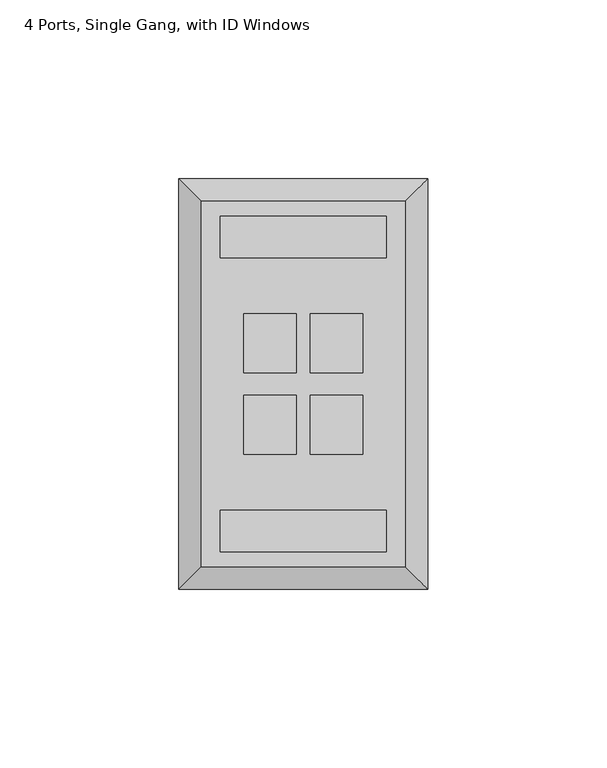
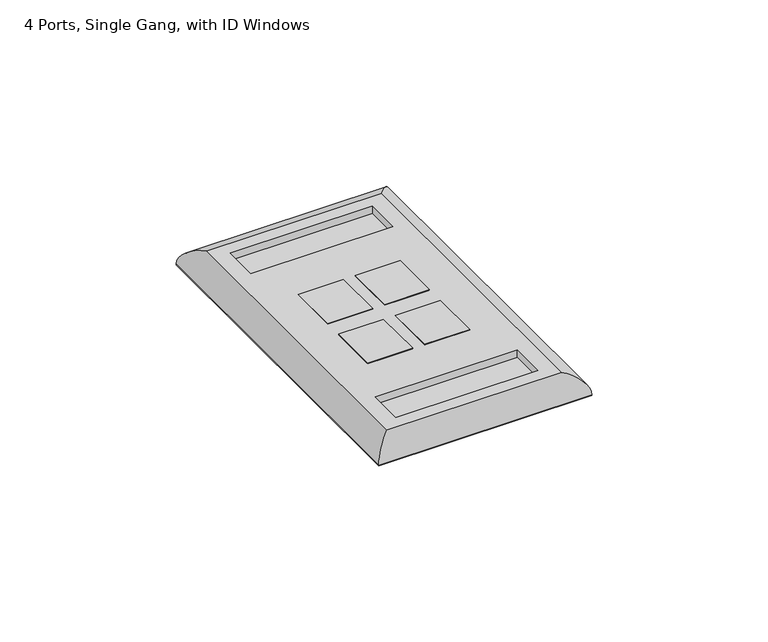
"""IFC4 building model written with IfcOpenShell, lengths in millimetres: electric appliance geometry, Data_Device-Work_Area-Leviton-QuickPort-Wallplate : 4 Ports, Single Gang, with ID Windows."""

from ifc_helpers import new_model, si_unit, frame, origin, origin_with_axes, place, context, project, spatial, polyline, ellipse_curve, outline, extrude, source, transform, mapped, element, save
from ifc_brep_helpers import plane_surface, cylinder_surface, advanced_brep


def electric_appliance_4_ports_single_gang_with_id_windows_01c80b1b(model_context):
    return source(origin(), model_context, "Body", "SolidModel", [
        extrude(outline(polyline([(-24.9936, 27.813), (-24.9936, 11.303), (-39.7256, 11.303), (-39.7256, 27.813), (-24.9936, 27.813)])), origin_with_axes(), (0.0, 0.0, 1.0), 6.35),
        extrude(outline(polyline([(-24.9936, 5.08), (-24.9936, -11.43), (-39.7256, -11.43), (-39.7256, 5.08), (-24.9936, 5.08)])), origin_with_axes(), (0.0, 0.0, 1.0), 6.35),
        extrude(outline(polyline([(-6.3246, 27.813), (-6.3246, 11.303), (-21.0566, 11.303), (-21.0566, 27.813), (-6.3246, 27.813)])), origin_with_axes(), (0.0, 0.0, 1.0), 6.35),
        extrude(outline(polyline([(-6.3246, 5.08), (-6.3246, -11.43), (-21.0566, -11.43), (-21.0566, 5.08), (-6.3246, 5.08)])), origin_with_axes(), (0.0, 0.0, 1.0), 6.35),
        advanced_brep(
        [(5.5499, -42.9895, 6.35), (5.5499, 59.3725, 6.35), (-51.6001, 59.3725, 6.35), (-51.6001, -42.9895, 6.35), (-39.7256, 27.813, 6.35), (-24.9936, 27.813, 6.35), (-24.9936, 11.303, 6.35), (-39.7256, 11.303, 6.35), (-39.7256, 5.08, 6.35), (-24.9936, 5.08, 6.35), (-24.9936, -11.43, 6.35), (-39.7256, -11.43, 6.35), (-21.0566, 27.813, 6.35), (-6.3246, 27.813, 6.35), (-6.3246, 11.303, 6.35), (-21.0566, 11.303, 6.35), (-21.0566, 5.08, 6.35), (-6.3246, 5.08, 6.35), (-6.3246, -11.43, 6.35), (-21.0566, -11.43, 6.35), (-46.2661, 55.1815, 6.35), (0.2159, 55.1815, 6.35), (0.2159, 43.4975, 6.35), (-46.2661, 43.4975, 6.35), (0.2159, -27.1145, 6.35), (0.2159, -38.7985, 6.35), (-46.2661, -38.7985, 6.35), (-46.2661, -27.1145, 6.35), (11.8999, 65.7225, 0.0), (11.8999, -49.3395, 0.0), (-57.9501, -49.3395, 0.0), (-57.9501, 65.7225, 0.0), (-24.9936, 27.813, 0.0), (-39.7256, 27.813, 0.0), (-39.7256, 11.303, 0.0), (-24.9936, 11.303, 0.0), (-24.9936, 5.08, 0.0), (-39.7256, 5.08, 0.0), (-39.7256, -11.43, 0.0), (-24.9936, -11.43, 0.0), (-6.3246, 27.813, 0.0), (-21.0566, 27.813, 0.0), (-21.0566, 11.303, 0.0), (-6.3246, 11.303, 0.0), (-6.3246, 5.08, 0.0), (-21.0566, 5.08, 0.0), (-21.0566, -11.43, 0.0), (-6.3246, -11.43, 0.0), (-57.9501, 65.7225, 0.254), (11.8999, 65.7225, 0.254), (-57.9501, -49.3395, 0.254), (11.8999, -49.3395, 0.254), (0.2159, 55.1815, 3.81), (-46.2661, 55.1815, 3.81), (-46.2661, 43.4975, 3.81), (0.2159, 43.4975, 3.81), (0.2159, -38.7985, 3.81), (0.2159, -27.1145, 3.81), (-46.2661, -27.1145, 3.81), (-46.2661, -38.7985, 3.81)],
        [
            (0, 1),
            (1, 2),
            (2, 3),
            (3, 0),
            (4, 5),
            (5, 6),
            (6, 7),
            (7, 4),
            (8, 9),
            (9, 10),
            (10, 11),
            (11, 8),
            (12, 13),
            (13, 14),
            (14, 15),
            (15, 12),
            (16, 17),
            (17, 18),
            (18, 19),
            (19, 16),
            (20, 21),
            (21, 22),
            (22, 23),
            (23, 20),
            (24, 25),
            (25, 26),
            (26, 27),
            (27, 24),
            (28, 29),
            (29, 30),
            (30, 31),
            (31, 28),
            (32, 33),
            (33, 34),
            (34, 35),
            (35, 32),
            (36, 37),
            (37, 38),
            (38, 39),
            (39, 36),
            (40, 41),
            (41, 42),
            (42, 43),
            (43, 40),
            (44, 45),
            (45, 46),
            (46, 47),
            (47, 44),
            (31, 48),
            (48, 49),
            (49, 28),
            (30, 50),
            (50, 48),
            (29, 51),
            (51, 50),
            (49, 51),
            (4, 33),
            (32, 5),
            (7, 34),
            (6, 35),
            (8, 37),
            (36, 9),
            (11, 38),
            (10, 39),
            (12, 41),
            (40, 13),
            (15, 42),
            (14, 43),
            (16, 45),
            (44, 17),
            (19, 46),
            (18, 47),
            (52, 53),
            (53, 54),
            (54, 55),
            (55, 52),
            (56, 57),
            (57, 58),
            (58, 59),
            (59, 56),
            (52, 21),
            (20, 53),
            (23, 54),
            (22, 55),
            (56, 25),
            (24, 57),
            (27, 58),
            (26, 59),
            (0, 51, ellipse_curve(frame((5.5499, -42.9895, -0.0052917), z_axis=(0.7071067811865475, 0.7071067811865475, 0.0), x_axis=(0.7071067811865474, -0.7071067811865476, 0.0)), 8.9877397, 6.3552917)),
            (49, 1, ellipse_curve(frame((5.5499, 59.3725, -0.0052917), z_axis=(0.7071067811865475, -0.7071067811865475, 0.0), x_axis=(-0.7071067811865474, -0.7071067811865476, 0.0)), 8.9877397, 6.3552917)),
            (3, 50, ellipse_curve(frame((-51.6001, -42.9895, -0.0052917), z_axis=(0.7071067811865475, -0.7071067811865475, 0.0), x_axis=(-0.7071067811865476, -0.7071067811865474, 0.0)), 8.9877397, 6.3552917)),
            (2, 48, ellipse_curve(frame((-51.6001, 59.3725, -0.0052917), z_axis=(-0.7071067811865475, -0.7071067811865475, 0.0), x_axis=(-0.7071067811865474, 0.7071067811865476, 0.0)), 8.9877397, 6.3552917)),
        ],
        [
            plane_surface(frame((-57.9501, 65.7225, 6.35), z_axis=(0.0, 0.0, 1.0), x_axis=(-1.0, 0.0, 0.0))),
            plane_surface(frame((-57.9501, 65.7225, 0.0), z_axis=(0.0, 0.0, -1.0), x_axis=(1.0, 0.0, 0.0))),
            plane_surface(frame((11.8999, 65.7225, 6.35), z_axis=(0.0, 1.0, 0.0), x_axis=(0.0, 0.0, -1.0))),
            plane_surface(frame((-57.9501, 65.7225, 6.35), z_axis=(-1.0, 0.0, 0.0), x_axis=(0.0, 0.0, -1.0))),
            plane_surface(frame((-57.9501, -49.3395, 6.35), z_axis=(0.0, -1.0, 0.0), x_axis=(0.0, 0.0, -1.0))),
            plane_surface(frame((11.8999, -49.3395, 6.35), z_axis=(1.0, 0.0, 0.0), x_axis=(0.0, 0.0, -1.0))),
            plane_surface(frame((-24.9936, 27.813, 6.35), z_axis=(0.0, -1.0, 0.0), x_axis=(0.0, 0.0, -1.0))),
            plane_surface(frame((-39.7256, 27.813, 6.35), z_axis=(1.0, 0.0, 0.0), x_axis=(0.0, 0.0, -1.0))),
            plane_surface(frame((-39.7256, 11.303, 6.35), z_axis=(0.0, 1.0, 0.0), x_axis=(0.0, 0.0, -1.0))),
            plane_surface(frame((-24.9936, 11.303, 6.35), z_axis=(-1.0, 0.0, 0.0), x_axis=(0.0, 0.0, -1.0))),
            plane_surface(frame((-24.9936, 5.08, 6.35), z_axis=(0.0, -1.0, 0.0), x_axis=(0.0, 0.0, -1.0))),
            plane_surface(frame((-39.7256, 5.08, 6.35), z_axis=(1.0, 0.0, 0.0), x_axis=(0.0, 0.0, -1.0))),
            plane_surface(frame((-39.7256, -11.43, 6.35), z_axis=(0.0, 1.0, 0.0), x_axis=(0.0, 0.0, -1.0))),
            plane_surface(frame((-24.9936, -11.43, 6.35), z_axis=(-1.0, 0.0, 0.0), x_axis=(0.0, 0.0, -1.0))),
            plane_surface(frame((-6.3246, 27.813, 6.35), z_axis=(0.0, -1.0, 0.0), x_axis=(0.0, 0.0, -1.0))),
            plane_surface(frame((-21.0566, 27.813, 6.35), z_axis=(1.0, 0.0, 0.0), x_axis=(0.0, 0.0, -1.0))),
            plane_surface(frame((-21.0566, 11.303, 6.35), z_axis=(0.0, 1.0, 0.0), x_axis=(0.0, 0.0, -1.0))),
            plane_surface(frame((-6.3246, 11.303, 6.35), z_axis=(-1.0, 0.0, 0.0), x_axis=(0.0, 0.0, -1.0))),
            plane_surface(frame((-6.3246, 5.08, 6.35), z_axis=(0.0, -1.0, 0.0), x_axis=(0.0, 0.0, -1.0))),
            plane_surface(frame((-21.0566, 5.08, 6.35), z_axis=(1.0, 0.0, 0.0), x_axis=(0.0, 0.0, -1.0))),
            plane_surface(frame((-21.0566, -11.43, 6.35), z_axis=(0.0, 1.0, 0.0), x_axis=(0.0, 0.0, -1.0))),
            plane_surface(frame((-6.3246, -11.43, 6.35), z_axis=(-1.0, 0.0, 0.0), x_axis=(0.0, 0.0, -1.0))),
            plane_surface(frame((-46.2661, 55.1815, 3.81), z_axis=(0.0, 0.0, 1.0), x_axis=(1.0, 0.0, 0.0))),
            plane_surface(frame((0.2159, 55.1815, 6.35), z_axis=(0.0, -1.0, 0.0), x_axis=(0.0, 0.0, -1.0))),
            plane_surface(frame((-46.2661, 55.1815, 6.35), z_axis=(1.0, 0.0, 0.0), x_axis=(0.0, 0.0, -1.0))),
            plane_surface(frame((-46.2661, 43.4975, 6.35), z_axis=(0.0, 1.0, 0.0), x_axis=(0.0, 0.0, -1.0))),
            plane_surface(frame((0.2159, 43.4975, 6.35), z_axis=(-1.0, 0.0, 0.0), x_axis=(0.0, 0.0, -1.0))),
            plane_surface(frame((0.2159, -38.7985, 6.35), z_axis=(-1.0, 0.0, 0.0), x_axis=(0.0, 0.0, -1.0))),
            plane_surface(frame((0.2159, -27.1145, 6.35), z_axis=(0.0, -1.0, 0.0), x_axis=(0.0, 0.0, -1.0))),
            plane_surface(frame((-46.2661, -27.1145, 6.35), z_axis=(1.0, 0.0, 0.0), x_axis=(0.0, 0.0, -1.0))),
            plane_surface(frame((-46.2661, -38.7985, 6.35), z_axis=(0.0, 1.0, 0.0), x_axis=(0.0, 0.0, -1.0))),
            cylinder_surface(frame((5.5499, 65.7225, -0.0052917), z_axis=(0.0, -1.0, 0.0), x_axis=(1.0, 0.0, 0.0)), 6.3552917),
            cylinder_surface(frame((11.8999, -42.9895, -0.0052917), z_axis=(-1.0, 0.0, 0.0), x_axis=(0.0, -1.0, 0.0)), 6.3552917),
            cylinder_surface(frame((-51.6001, -49.3395, -0.0052917), z_axis=(0.0, 1.0, 0.0), x_axis=(-1.0, 0.0, 0.0)), 6.3552917),
            cylinder_surface(frame((-57.9501, 59.3725, -0.0052917), z_axis=(1.0, 0.0, 0.0), x_axis=(0.0, 1.0, 0.0)), 6.3552917),
        ],
        [
            (0, [[1, 2, 3, 4], [5, 6, 7, 8], [9, 10, 11, 12], [13, 14, 15, 16], [17, 18, 19, 20], [21, 22, 23, 24], [25, 26, 27, 28]]),
            (1, [[29, 30, 31, 32], [33, 34, 35, 36], [37, 38, 39, 40], [41, 42, 43, 44], [45, 46, 47, 48]]),
            (2, [[-32, 49, 50, 51]]),
            (3, [[-31, 52, 53, -49]]),
            (4, [[-30, 54, 55, -52]]),
            (5, [[-29, -51, 56, -54]]),
            (6, [[57, -33, 58, -5]]),
            (7, [[-57, -8, 59, -34]]),
            (8, [[-59, -7, 60, -35]]),
            (9, [[-58, -36, -60, -6]]),
            (10, [[61, -37, 62, -9]]),
            (11, [[-61, -12, 63, -38]]),
            (12, [[-63, -11, 64, -39]]),
            (13, [[-62, -40, -64, -10]]),
            (14, [[65, -41, 66, -13]]),
            (15, [[-65, -16, 67, -42]]),
            (16, [[-67, -15, 68, -43]]),
            (17, [[-66, -44, -68, -14]]),
            (18, [[69, -45, 70, -17]]),
            (19, [[-69, -20, 71, -46]]),
            (20, [[-71, -19, 72, -47]]),
            (21, [[-70, -48, -72, -18]]),
            (22, [[73, 74, 75, 76]]),
            (22, [[77, 78, 79, 80]]),
            (23, [[-73, 81, -21, 82]]),
            (24, [[-74, -82, -24, 83]]),
            (25, [[-75, -83, -23, 84]]),
            (26, [[-76, -84, -22, -81]]),
            (27, [[-77, 85, -25, 86]]),
            (28, [[-78, -86, -28, 87]]),
            (29, [[-79, -87, -27, 88]]),
            (30, [[-80, -88, -26, -85]]),
            (31, [[89, -56, 90, -1]]),
            (32, [[-89, -4, 91, -55]]),
            (33, [[-91, -3, 92, -53]]),
            (34, [[-90, -50, -92, -2]]),
        ],
    ),
        extrude(outline(polyline([(11.6459, 65.4685), (11.6459, -49.0855), (-57.6961, -49.0855), (-57.6961, 65.4685), (11.6459, 65.4685)]), holes=[polyline([(-24.9936, 27.813), (-39.7256, 27.813), (-39.7256, 11.303), (-24.9936, 11.303), (-24.9936, 27.813)]), polyline([(-24.9936, 5.08), (-39.7256, 5.08), (-39.7256, -11.43), (-24.9936, -11.43), (-24.9936, 5.08)]), polyline([(-6.3246, 27.813), (-21.0566, 27.813), (-21.0566, 11.303), (-6.3246, 11.303), (-6.3246, 27.813)]), polyline([(-6.3246, 5.08), (-21.0566, 5.08), (-21.0566, -11.43), (-6.3246, -11.43), (-6.3246, 5.08)])]), origin_with_axes(), (0.0, 0.0, 1.0), 0.254),
    ])


if __name__ == "__main__":
    model = new_model("IFC4")
    model_context = context("Model", 3, world=origin())
    ifc_project = project(units=[si_unit("LENGTHUNIT", "METRE", prefix="MILLI")], contexts=[model_context])
    site = spatial("IfcSite", under=ifc_project)
    building = spatial("IfcBuilding", under=site)
    placement = place(None, origin())
    electric_appliance_4_ports_single_gang_with_id_windows_shape = electric_appliance_4_ports_single_gang_with_id_windows_01c80b1b(model_context)
    element("IfcElectricAppliance", 1, ObjectType="Data_Device-Work_Area-Leviton-QuickPort-Wallplate : 4 Ports, Single Gang, with ID Windows", at=placement, inside=building, context=model_context, shape_type="MappedRepresentation", body=[
        mapped(electric_appliance_4_ports_single_gang_with_id_windows_shape, transform((0.0, 0.0, 0.0), x_axis=(1.0, 0.0, 0.0), y_axis=(0.0, 1.0, 0.0), z_axis=(0.0, 0.0, 1.0))),
    ])
    save(model, "model.ifc")
